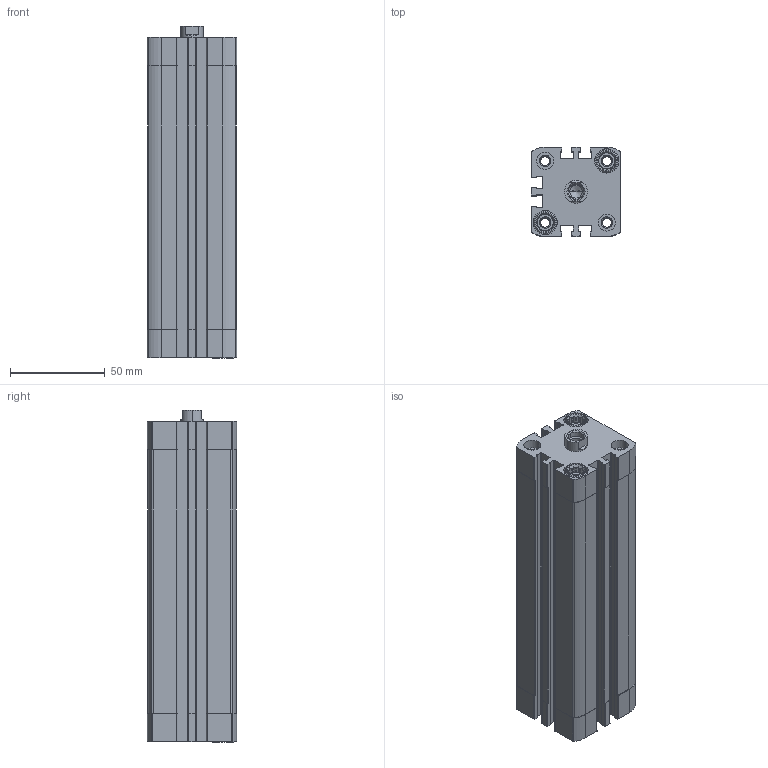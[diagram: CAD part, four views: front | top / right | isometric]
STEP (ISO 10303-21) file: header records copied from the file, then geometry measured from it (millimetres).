
FILE_DESCRIPTION (( 'STEP AP203' ), '1' );
FILE_NAME ('CCN32-125F.STEP', '2017-03-29T11:36:56', ( '' ), ( '' ), 'SwSTEP 2.0', 'SolidWorks 2016', '' );
FILE_SCHEMA (( 'CONFIG_CONTROL_DESIGN' ));
Length unit declared in the file: millimetre
Products named in the file (3): CCN-125---(Z); CCN-125_(KS); CCN32-125F
Assembly tree (2 placements, depth 2):
  CCN32-125F
    CCN-125---(Z)
    CCN-125_(KS)
Bounding box: 47 x 47 x 175 mm (x, y, z)
Volume: 219499.4 mm3; surface area: 86981.9 mm2
Topology: 2 solids, 2 shells, 479 faces, 1298 edges, 853 vertices
Faces by surface type: plane 267, cylinder 170, cone 42
Entity records: 15589 total; most frequent: CARTESIAN_POINT 2927, DIRECTION 2652, ORIENTED_EDGE 2592, EDGE_CURVE 1296, AXIS2_PLACEMENT_3D 970, VERTEX_POINT 853, VECTOR 712, LINE 712
